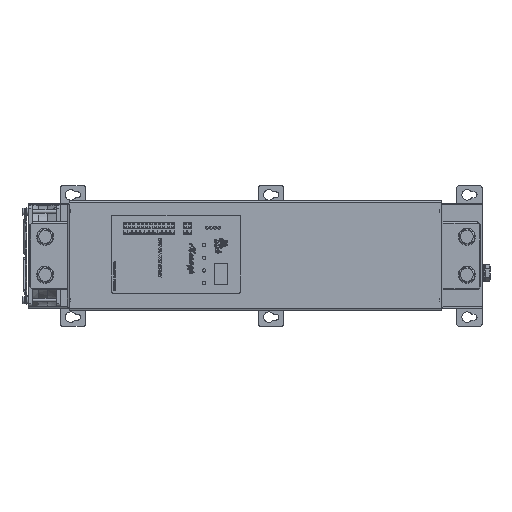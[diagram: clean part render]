
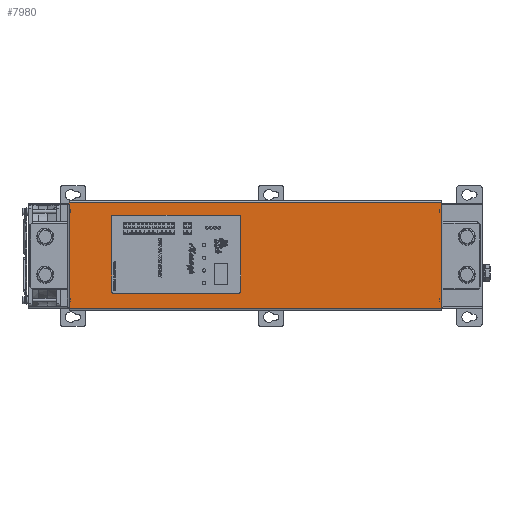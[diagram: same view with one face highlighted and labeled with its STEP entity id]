
A CAD part, top view. The second image highlights one B-rep face of the part: STEP entity #7980.
In plain terms, the highlighted planar face has unit normal (0, 0, 1).
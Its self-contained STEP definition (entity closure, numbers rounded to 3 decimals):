
#7980=ADVANCED_FACE('',(#50055,#50057),#50059,.F.);
#50055=FACE_BOUND('',#50056,.T.);
#50056=EDGE_LOOP('',(#80068,#80069,#80070,#80071,#80072,#80073,#80074,#80075));
#50057=FACE_BOUND('',#50058,.T.);
#50058=EDGE_LOOP('',(#80076,#80077,#80078,#80079,#80080,#80081,#80082,#80083));
#50059=PLANE('',#50060);
#50060=AXIS2_PLACEMENT_3D('',#50061,#50062,#50063);
#50061=CARTESIAN_POINT('',(-46.5,-32.,192.5));
#50062=DIRECTION('',(0.,0.,-1.));
#50063=DIRECTION('',(1.,0.,0.));
#80068=ORIENTED_EDGE('',*,*,#95702,.T.);
#80069=ORIENTED_EDGE('',*,*,#95703,.T.);
#80070=ORIENTED_EDGE('',*,*,#95704,.T.);
#80071=ORIENTED_EDGE('',*,*,#95705,.T.);
#80072=ORIENTED_EDGE('',*,*,#95706,.T.);
#80073=ORIENTED_EDGE('',*,*,#95707,.T.);
#80074=ORIENTED_EDGE('',*,*,#95708,.T.);
#80075=ORIENTED_EDGE('',*,*,#95709,.T.);
#80076=ORIENTED_EDGE('',*,*,#92882,.F.);
#80077=ORIENTED_EDGE('',*,*,#92897,.F.);
#80078=ORIENTED_EDGE('',*,*,#92895,.F.);
#80079=ORIENTED_EDGE('',*,*,#92893,.F.);
#80080=ORIENTED_EDGE('',*,*,#92891,.F.);
#80081=ORIENTED_EDGE('',*,*,#92889,.F.);
#80082=ORIENTED_EDGE('',*,*,#92887,.F.);
#80083=ORIENTED_EDGE('',*,*,#92885,.F.);
#92882=EDGE_CURVE('',#107338,#107339,#107340,.T.);
#92885=EDGE_CURVE('',#107339,#107343,#107344,.T.);
#92887=EDGE_CURVE('',#107343,#107346,#107347,.F.);
#92889=EDGE_CURVE('',#107346,#107349,#107350,.T.);
#92891=EDGE_CURVE('',#107349,#107352,#107353,.F.);
#92893=EDGE_CURVE('',#107352,#107355,#107356,.T.);
#92895=EDGE_CURVE('',#107355,#107358,#107359,.F.);
#92897=EDGE_CURVE('',#107358,#107338,#107361,.T.);
#95702=EDGE_CURVE('',#111657,#111658,#111659,.T.);
#95703=EDGE_CURVE('',#111658,#111660,#111661,.T.);
#95704=EDGE_CURVE('',#111660,#111662,#111663,.T.);
#95705=EDGE_CURVE('',#111662,#111664,#111665,.T.);
#95706=EDGE_CURVE('',#111664,#111666,#111667,.T.);
#95707=EDGE_CURVE('',#111666,#111668,#111669,.T.);
#95708=EDGE_CURVE('',#111668,#111670,#111671,.T.);
#95709=EDGE_CURVE('',#111670,#111657,#111672,.T.);
#107338=VERTEX_POINT('',#149389);
#107339=VERTEX_POINT('',#149390);
#107340=CIRCLE('',#149391,3.);
#107343=VERTEX_POINT('',#149401);
#107344=LINE('',#149402,#149403);
#107346=VERTEX_POINT('',#149408);
#107347=CIRCLE('',#149409,1.5);
#107349=VERTEX_POINT('',#149416);
#107350=LINE('',#149417,#149418);
#107352=VERTEX_POINT('',#149423);
#107353=CIRCLE('',#149424,1.5);
#107355=VERTEX_POINT('',#149431);
#107356=LINE('',#149432,#149433);
#107358=VERTEX_POINT('',#149438);
#107359=CIRCLE('',#149439,3.);
#107361=LINE('',#149446,#149447);
#111657=VERTEX_POINT('',#160337);
#111658=VERTEX_POINT('',#160338);
#111659=LINE('',#160339,#160340);
#111660=VERTEX_POINT('',#160342);
#111661=LINE('',#160343,#160344);
#111662=VERTEX_POINT('',#160346);
#111663=LINE('',#160347,#160348);
#111664=VERTEX_POINT('',#160350);
#111665=LINE('',#160351,#160352);
#111666=VERTEX_POINT('',#160354);
#111667=LINE('',#160355,#160356);
#111668=VERTEX_POINT('',#160358);
#111669=LINE('',#160359,#160360);
#111670=VERTEX_POINT('',#160362);
#111671=LINE('',#160363,#160364);
#111672=LINE('',#160366,#160367);
#149389=CARTESIAN_POINT('',(-39.3,-45.1,192.5));
#149390=CARTESIAN_POINT('',(-36.3,-42.1,192.5));
#149391=AXIS2_PLACEMENT_3D('',#149392,#149393,#149394);
#149392=CARTESIAN_POINT('',(-39.3,-42.1,192.5));
#149393=DIRECTION('',(0.,0.,1.));
#149394=DIRECTION('',(0.,-1.,0.));
#149401=CARTESIAN_POINT('',(-36.3,46.4,192.5));
#149402=CARTESIAN_POINT('',(-36.3,-42.1,192.5));
#149403=VECTOR('',#149404,1.);
#149404=DIRECTION('',(0.,1.,0.));
#149408=CARTESIAN_POINT('',(-37.8,47.9,192.5));
#149409=AXIS2_PLACEMENT_3D('',#149410,#149411,#149412);
#149410=CARTESIAN_POINT('',(-37.8,46.4,192.5));
#149411=DIRECTION('',(0.,0.,-1.));
#149412=DIRECTION('',(0.,1.,0.));
#149416=CARTESIAN_POINT('',(-187.8,47.9,192.5));
#149417=CARTESIAN_POINT('',(-37.8,47.9,192.5));
#149418=VECTOR('',#149419,1.);
#149419=DIRECTION('',(-1.,0.,0.));
#149423=CARTESIAN_POINT('',(-189.3,46.4,192.5));
#149424=AXIS2_PLACEMENT_3D('',#149425,#149426,#149427);
#149425=CARTESIAN_POINT('',(-187.8,46.4,192.5));
#149426=DIRECTION('',(0.,0.,-1.));
#149427=DIRECTION('',(-1.,0.,0.));
#149431=CARTESIAN_POINT('',(-189.3,-42.1,192.5));
#149432=CARTESIAN_POINT('',(-189.3,46.4,192.5));
#149433=VECTOR('',#149434,1.);
#149434=DIRECTION('',(0.,-1.,0.));
#149438=CARTESIAN_POINT('',(-186.3,-45.1,192.5));
#149439=AXIS2_PLACEMENT_3D('',#149440,#149441,#149442);
#149440=CARTESIAN_POINT('',(-186.3,-42.1,192.5));
#149441=DIRECTION('',(0.,0.,-1.));
#149442=DIRECTION('',(0.,-1.,0.));
#149446=CARTESIAN_POINT('',(-186.3,-45.1,192.5));
#149447=VECTOR('',#149448,1.);
#149448=DIRECTION('',(1.,0.,0.));
#160337=CARTESIAN_POINT('',(201.5,-63.,192.5));
#160338=CARTESIAN_POINT('',(201.5,-61.,192.5));
#160339=CARTESIAN_POINT('',(201.5,-63.,192.5));
#160340=VECTOR('',#160341,1.);
#160341=DIRECTION('',(0.,1.,0.));
#160342=CARTESIAN_POINT('',(201.5,61.,192.5));
#160343=CARTESIAN_POINT('',(201.5,-61.,192.5));
#160344=VECTOR('',#160345,1.);
#160345=DIRECTION('',(0.,1.,0.));
#160346=CARTESIAN_POINT('',(201.5,63.,192.5));
#160347=CARTESIAN_POINT('',(201.5,61.,192.5));
#160348=VECTOR('',#160349,1.);
#160349=DIRECTION('',(0.,1.,0.));
#160350=CARTESIAN_POINT('',(-239.5,63.,192.5));
#160351=CARTESIAN_POINT('',(201.5,63.,192.5));
#160352=VECTOR('',#160353,1.);
#160353=DIRECTION('',(-1.,0.,0.));
#160354=CARTESIAN_POINT('',(-239.5,61.,192.5));
#160355=CARTESIAN_POINT('',(-239.5,63.,192.5));
#160356=VECTOR('',#160357,1.);
#160357=DIRECTION('',(0.,-1.,0.));
#160358=CARTESIAN_POINT('',(-239.5,-61.,192.5));
#160359=CARTESIAN_POINT('',(-239.5,61.,192.5));
#160360=VECTOR('',#160361,1.);
#160361=DIRECTION('',(0.,-1.,0.));
#160362=CARTESIAN_POINT('',(-239.5,-63.,192.5));
#160363=CARTESIAN_POINT('',(-239.5,-61.,192.5));
#160364=VECTOR('',#160365,1.);
#160365=DIRECTION('',(0.,-1.,0.));
#160366=CARTESIAN_POINT('',(-239.5,-63.,192.5));
#160367=VECTOR('',#160368,1.);
#160368=DIRECTION('',(1.,0.,0.));
